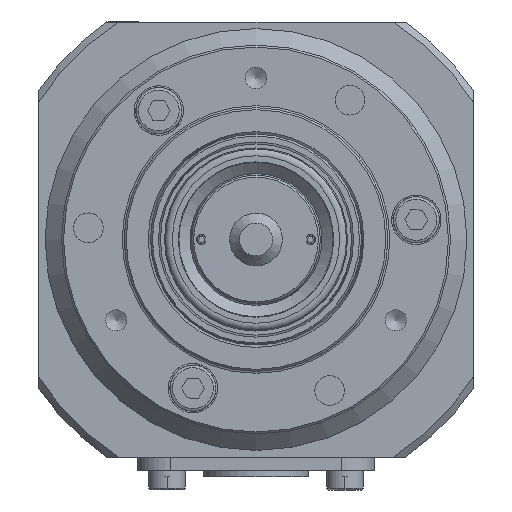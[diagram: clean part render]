
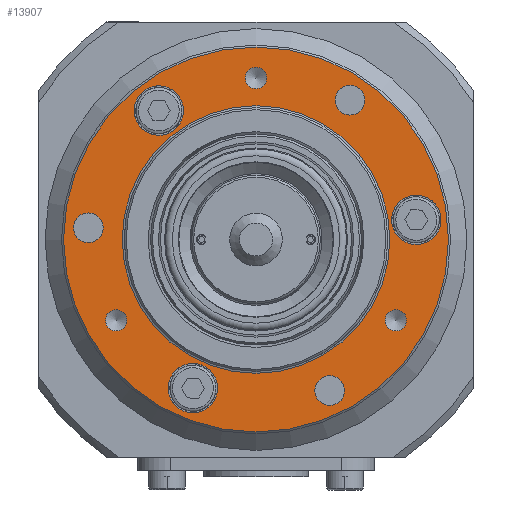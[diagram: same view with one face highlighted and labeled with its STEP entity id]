
A CAD part, left-side view. The second image highlights one B-rep face of the part: STEP entity #13907.
In plain terms, the highlighted planar face has unit normal (-1, 0, 0).
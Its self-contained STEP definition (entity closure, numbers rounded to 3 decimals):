
#3152=PLANE('',#14839);
#3552=FACE_BOUND('',#4768,.T.);
#3553=FACE_BOUND('',#4769,.T.);
#3554=FACE_BOUND('',#4770,.T.);
#3555=FACE_BOUND('',#4771,.T.);
#3556=FACE_BOUND('',#4772,.T.);
#3557=FACE_BOUND('',#4773,.T.);
#3558=FACE_BOUND('',#4774,.T.);
#3559=FACE_BOUND('',#4775,.T.);
#3560=FACE_BOUND('',#4776,.T.);
#3561=FACE_BOUND('',#4777,.T.);
#3885=FACE_OUTER_BOUND('',#4767,.T.);
#4767=EDGE_LOOP('',(#10181));
#4768=EDGE_LOOP('',(#10182));
#4769=EDGE_LOOP('',(#10183));
#4770=EDGE_LOOP('',(#10184));
#4771=EDGE_LOOP('',(#10185));
#4772=EDGE_LOOP('',(#10186));
#4773=EDGE_LOOP('',(#10187));
#4774=EDGE_LOOP('',(#10188));
#4775=EDGE_LOOP('',(#10189));
#4776=EDGE_LOOP('',(#10190));
#4777=EDGE_LOOP('',(#10191));
#5633=CIRCLE('',#14827,29.2);
#5635=CIRCLE('',#14830,1.621);
#5637=CIRCLE('',#14834,3.75);
#5638=CIRCLE('',#14836,2.25);
#5640=CIRCLE('',#14840,2.25);
#5641=CIRCLE('',#14841,3.75);
#5642=CIRCLE('',#14842,1.621);
#5643=CIRCLE('',#14843,2.25);
#5644=CIRCLE('',#14844,3.75);
#5645=CIRCLE('',#14845,1.621);
#5646=CIRCLE('',#14846,20.3);
#6462=VERTEX_POINT('',#21423);
#6464=VERTEX_POINT('',#21428);
#6466=VERTEX_POINT('',#21434);
#6467=VERTEX_POINT('',#21437);
#6469=VERTEX_POINT('',#21443);
#6470=VERTEX_POINT('',#21445);
#6471=VERTEX_POINT('',#21447);
#6472=VERTEX_POINT('',#21449);
#6473=VERTEX_POINT('',#21451);
#6474=VERTEX_POINT('',#21453);
#6475=VERTEX_POINT('',#21455);
#7910=EDGE_CURVE('',#6462,#6462,#5633,.T.);
#7912=EDGE_CURVE('',#6464,#6464,#5635,.T.);
#7914=EDGE_CURVE('',#6466,#6466,#5637,.T.);
#7915=EDGE_CURVE('',#6467,#6467,#5638,.T.);
#7917=EDGE_CURVE('',#6469,#6469,#5640,.T.);
#7918=EDGE_CURVE('',#6470,#6470,#5641,.T.);
#7919=EDGE_CURVE('',#6471,#6471,#5642,.T.);
#7920=EDGE_CURVE('',#6472,#6472,#5643,.T.);
#7921=EDGE_CURVE('',#6473,#6473,#5644,.T.);
#7922=EDGE_CURVE('',#6474,#6474,#5645,.T.);
#7923=EDGE_CURVE('',#6475,#6475,#5646,.T.);
#10181=ORIENTED_EDGE('',*,*,#7910,.F.);
#10182=ORIENTED_EDGE('',*,*,#7917,.T.);
#10183=ORIENTED_EDGE('',*,*,#7918,.T.);
#10184=ORIENTED_EDGE('',*,*,#7919,.T.);
#10185=ORIENTED_EDGE('',*,*,#7920,.T.);
#10186=ORIENTED_EDGE('',*,*,#7921,.T.);
#10187=ORIENTED_EDGE('',*,*,#7922,.T.);
#10188=ORIENTED_EDGE('',*,*,#7912,.T.);
#10189=ORIENTED_EDGE('',*,*,#7914,.T.);
#10190=ORIENTED_EDGE('',*,*,#7915,.T.);
#10191=ORIENTED_EDGE('',*,*,#7923,.F.);
#13907=ADVANCED_FACE('',(#3885,#3552,#3553,#3554,#3555,#3556,#3557,#3558,
#3559,#3560,#3561),#3152,.T.);
#14827=AXIS2_PLACEMENT_3D('',#21424,#16393,#16394);
#14830=AXIS2_PLACEMENT_3D('',#21429,#16399,#16400);
#14834=AXIS2_PLACEMENT_3D('',#21435,#16407,#16408);
#14836=AXIS2_PLACEMENT_3D('',#21438,#16411,#16412);
#14839=AXIS2_PLACEMENT_3D('',#21442,#16417,#16418);
#14840=AXIS2_PLACEMENT_3D('',#21444,#16419,#16420);
#14841=AXIS2_PLACEMENT_3D('',#21446,#16421,#16422);
#14842=AXIS2_PLACEMENT_3D('',#21448,#16423,#16424);
#14843=AXIS2_PLACEMENT_3D('',#21450,#16425,#16426);
#14844=AXIS2_PLACEMENT_3D('',#21452,#16427,#16428);
#14845=AXIS2_PLACEMENT_3D('',#21454,#16429,#16430);
#14846=AXIS2_PLACEMENT_3D('',#21456,#16431,#16432);
#16393=DIRECTION('center_axis',(1.,0.,0.));
#16394=DIRECTION('ref_axis',(0.,0.,
-1.));
#16399=DIRECTION('center_axis',(1.,0.,0.));
#16400=DIRECTION('ref_axis',(0.,-1.,0.));
#16407=DIRECTION('center_axis',(1.,0.,0.));
#16408=DIRECTION('ref_axis',(0.,-1.,0.));
#16411=DIRECTION('center_axis',(1.,0.,0.));
#16412=DIRECTION('ref_axis',(0.,-1.,0.));
#16417=DIRECTION('center_axis',(-1.,0.,0.));
#16418=DIRECTION('ref_axis',(0.,-1.,0.));
#16419=DIRECTION('center_axis',(1.,0.,0.));
#16420=DIRECTION('ref_axis',(0.,0.5,0.866));
#16421=DIRECTION('center_axis',(1.,0.,0.));
#16422=DIRECTION('ref_axis',(0.,0.5,0.866));
#16423=DIRECTION('center_axis',(1.,0.,0.));
#16424=DIRECTION('ref_axis',(0.,0.5,0.866));
#16425=DIRECTION('center_axis',(1.,0.,0.));
#16426=DIRECTION('ref_axis',(0.,0.5,-0.866));
#16427=DIRECTION('center_axis',(1.,0.,0.));
#16428=DIRECTION('ref_axis',(0.,0.5,-0.866));
#16429=DIRECTION('center_axis',(1.,0.,0.));
#16430=DIRECTION('ref_axis',(0.,0.5,-0.866));
#16431=DIRECTION('center_axis',(-1.,0.,0.));
#16432=DIRECTION('ref_axis',(0.,0.,
-1.));
#21423=CARTESIAN_POINT('',(3.,0.,29.2));
#21424=CARTESIAN_POINT('Origin',(3.,0.,
0.));
#21428=CARTESIAN_POINT('',(3.,1.621,24.5));
#21429=CARTESIAN_POINT('Origin',(3.,0.,
24.5));
#21434=CARTESIAN_POINT('',(3.,18.494,19.567));
#21435=CARTESIAN_POINT('Origin',(3.,14.744,19.567));
#21437=CARTESIAN_POINT('',(3.,-14.259,23.39));
#21438=CARTESIAN_POINT('Origin',(3.,-14.259,21.14));
#21442=CARTESIAN_POINT('Origin',(3.,0.,
24.75));
#21443=CARTESIAN_POINT('',(3.,24.313,-0.17));
#21444=CARTESIAN_POINT('Origin',(3.,25.438,1.779));
#21445=CARTESIAN_POINT('',(3.,7.698,-25.8));
#21446=CARTESIAN_POINT('Origin',(3.,9.573,-22.552));
#21447=CARTESIAN_POINT('',(3.,20.407,-13.654));
#21448=CARTESIAN_POINT('Origin',(3.,21.218,-12.25));
#21449=CARTESIAN_POINT('',(3.,-12.303,-20.971));
#21450=CARTESIAN_POINT('Origin',(3.,-11.178,-22.919));
#21451=CARTESIAN_POINT('',(3.,-26.192,6.233));
#21452=CARTESIAN_POINT('Origin',(3.,-24.317,2.986));
#21453=CARTESIAN_POINT('',(3.,-22.028,-10.846));
#21454=CARTESIAN_POINT('Origin',(3.,-21.218,-12.25));
#21455=CARTESIAN_POINT('',(3.,0.,20.3));
#21456=CARTESIAN_POINT('Origin',(3.,0.,
0.));
